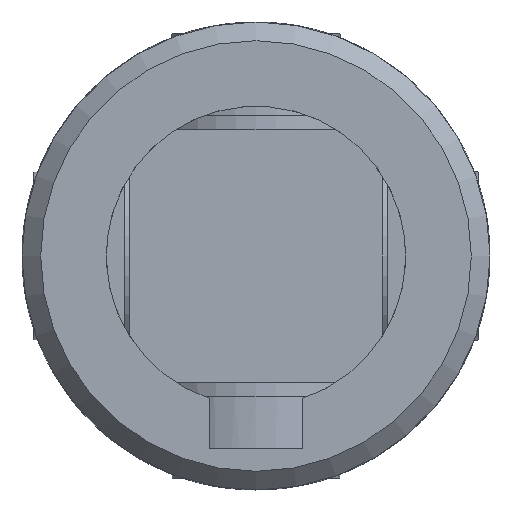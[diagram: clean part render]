
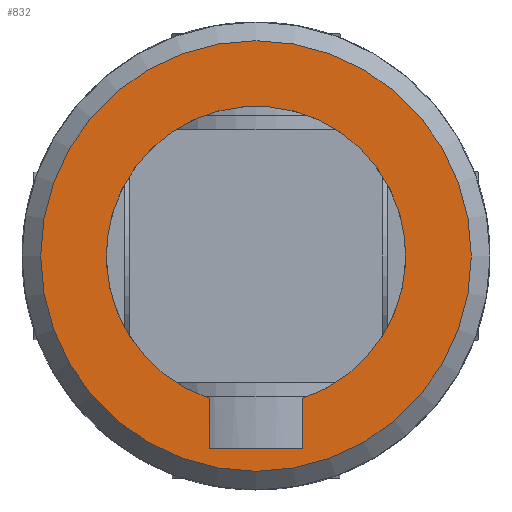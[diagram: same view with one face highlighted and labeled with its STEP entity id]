
A CAD part, front view. The second image highlights one B-rep face of the part: STEP entity #832.
In plain terms, the highlighted planar face has unit normal (0, -1, 0).
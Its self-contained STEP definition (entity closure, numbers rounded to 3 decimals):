
#91=LINE('',#1278,#128);
#93=LINE('',#1284,#130);
#100=LINE('',#1331,#137);
#128=VECTOR('',#1035,5.);
#130=VECTOR('',#1041,2.701);
#137=VECTOR('',#1056,2.701);
#167=PLANE('',#910);
#190=FACE_BOUND('',#286,.T.);
#220=FACE_OUTER_BOUND('',#285,.T.);
#285=EDGE_LOOP('',(#672));
#286=EDGE_LOOP('',(#673,#674,#675,#676));
#329=CIRCLE('',#894,8.);
#338=CIRCLE('',#908,11.5);
#381=VERTEX_POINT('',#1275);
#382=VERTEX_POINT('',#1277);
#384=VERTEX_POINT('',#1283);
#386=VERTEX_POINT('',#1297);
#400=VERTEX_POINT('',#1376);
#467=EDGE_CURVE('',#382,#381,#91,.T.);
#470=EDGE_CURVE('',#384,#382,#93,.T.);
#474=EDGE_CURVE('',#386,#384,#329,.T.);
#482=EDGE_CURVE('',#381,#386,#100,.T.);
#495=EDGE_CURVE('',#400,#400,#338,.T.);
#672=ORIENTED_EDGE('',*,*,#495,.F.);
#673=ORIENTED_EDGE('',*,*,#467,.T.);
#674=ORIENTED_EDGE('',*,*,#482,.T.);
#675=ORIENTED_EDGE('',*,*,#474,.T.);
#676=ORIENTED_EDGE('',*,*,#470,.T.);
#832=ADVANCED_FACE('',(#220,#190),#167,.F.);
#894=AXIS2_PLACEMENT_3D('',#1298,#1046,#1047);
#908=AXIS2_PLACEMENT_3D('',#1377,#1079,#1080);
#910=AXIS2_PLACEMENT_3D('',#1593,#1087,#1088);
#1035=DIRECTION('',(-1.,0.,0.));
#1041=DIRECTION('',(0.,0.,-1.));
#1046=DIRECTION('center_axis',(0.,1.,0.));
#1047=DIRECTION('ref_axis',(0.312,0.,-0.95));
#1056=DIRECTION('',(0.,0.,1.));
#1079=DIRECTION('center_axis',(0.,1.,0.));
#1080=DIRECTION('ref_axis',(1.,0.,0.));
#1087=DIRECTION('center_axis',(0.,1.,0.));
#1088=DIRECTION('ref_axis',(0.,0.,1.));
#1275=CARTESIAN_POINT('',(-2.5,-43.5,-10.3));
#1277=CARTESIAN_POINT('',(2.5,-43.5,-10.3));
#1278=CARTESIAN_POINT('',(1.25,-43.5,-10.3));
#1283=CARTESIAN_POINT('',(2.5,-43.5,-7.599));
#1284=CARTESIAN_POINT('',(2.5,-43.5,-3.8));
#1297=CARTESIAN_POINT('',(-2.5,-43.5,-7.599));
#1298=CARTESIAN_POINT('Origin',(0.,-43.5,0.));
#1331=CARTESIAN_POINT('',(-2.5,-43.5,-5.15));
#1376=CARTESIAN_POINT('',(-11.5,-43.5,0.));
#1377=CARTESIAN_POINT('Origin',(0.,-43.5,0.));
#1593=CARTESIAN_POINT('Origin',(0.,-43.5,0.));
